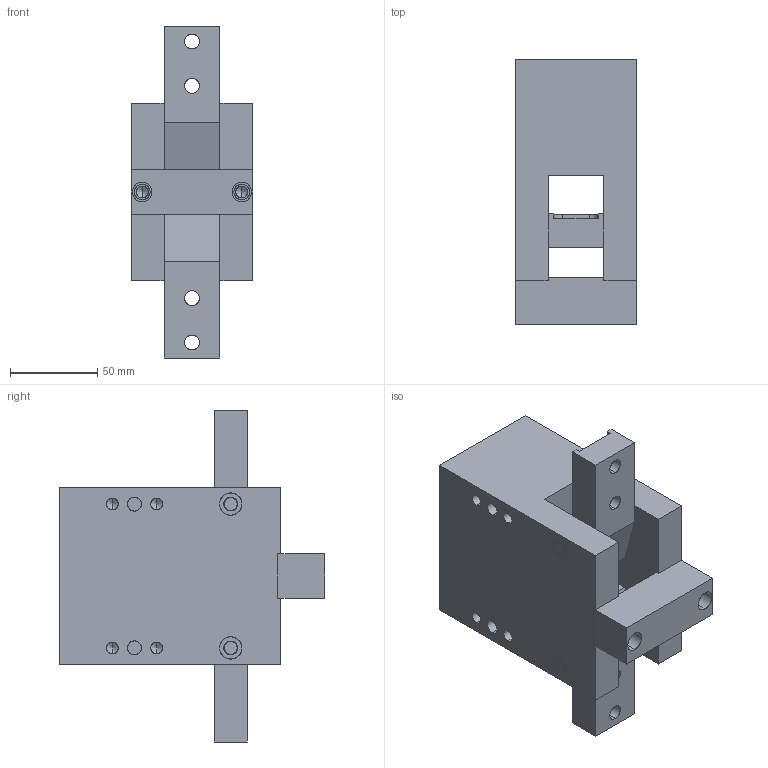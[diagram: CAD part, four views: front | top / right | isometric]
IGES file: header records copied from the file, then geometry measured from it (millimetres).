
Start section: SolidWorks IGES file using analytic representation for surfaces
Global section: file name: C:\Users\jmkuhnes\Pictures\AGA\AGA-50\AGA-50 OPEN in MM.IGS; native system: SolidWorks 2013; preprocessor: SolidWorks 2013; author: jmkuhnes; date: 141103.144657; units: millimetre
Bounding box: 69.85 x 152.4 x 190.5 mm (x, y, z)
Surface area: 116475.4 mm2 (no closed solid volume)
Topology: 0 solids, 0 shells, 199 faces, 3406 edges, 3386 vertices
Faces by surface type: revolution 123, bspline 76
